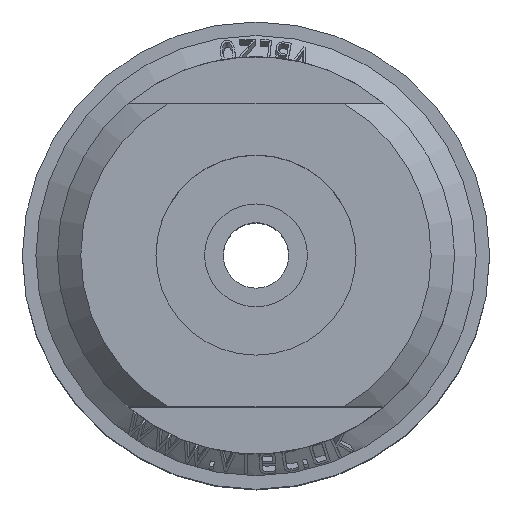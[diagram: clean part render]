
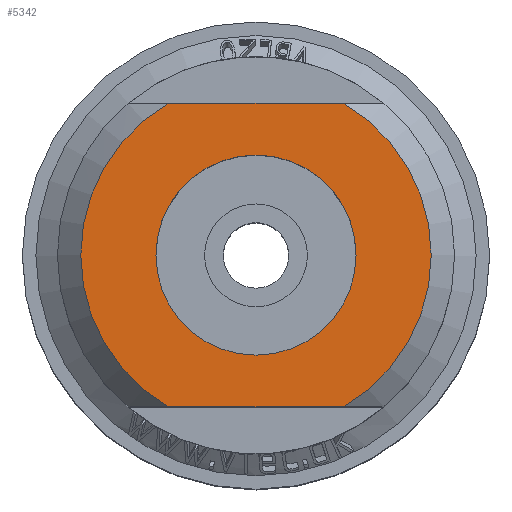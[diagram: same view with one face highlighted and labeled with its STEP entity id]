
A CAD part, top view. The second image highlights one B-rep face of the part: STEP entity #5342.
In plain terms, the highlighted planar face has unit normal (0, 0, 1).
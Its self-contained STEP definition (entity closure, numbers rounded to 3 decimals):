
#5342 = ADVANCED_FACE( '', ( #6668, #6669 ), #6670, .T. );
#6668 = FACE_BOUND( '', #7391, .T. );
#6669 = FACE_OUTER_BOUND( '', #7392, .T. );
#6670 = PLANE( '', #7393 );
#7391 = EDGE_LOOP( '', ( #8465 ) );
#7392 = EDGE_LOOP( '', ( #8466, #8467, #8468, #8469 ) );
#7393 = AXIS2_PLACEMENT_3D( '', #8470, #8471, #8472 );
#8465 = ORIENTED_EDGE( '', *, *, #11219, .T. );
#8466 = ORIENTED_EDGE( '', *, *, #11213, .F. );
#8467 = ORIENTED_EDGE( '', *, *, #11211, .T. );
#8468 = ORIENTED_EDGE( '', *, *, #11220, .F. );
#8469 = ORIENTED_EDGE( '', *, *, #11216, .F. );
#8470 = CARTESIAN_POINT( '', ( 0., 0., 6.85 ) );
#8471 = DIRECTION( '', ( 0., 0., 1. ) );
#8472 = DIRECTION( '', ( 1., 0., 0. ) );
#11211 = EDGE_CURVE( '', #11527, #11525, #11528, .T. );
#11213 = EDGE_CURVE( '', #11527, #11530, #11531, .T. );
#11216 = EDGE_CURVE( '', #11530, #11534, #11535, .T. );
#11219 = EDGE_CURVE( '', #11539, #11539, #11540, .T. );
#11220 = EDGE_CURVE( '', #11534, #11525, #11541, .T. );
#11525 = VERTEX_POINT( '', #11606 );
#11527 = VERTEX_POINT( '', #11611 );
#11528 = LINE( '', #11612, #11613 );
#11530 = VERTEX_POINT( '', #11618 );
#11531 = CIRCLE( '', #11619, 7.5 );
#11534 = VERTEX_POINT( '', #11626 );
#11535 = LINE( '', #11627, #11628 );
#11539 = VERTEX_POINT( '', #11635 );
#11540 = CIRCLE( '', #11636, 4.283 );
#11541 = CIRCLE( '', #11637, 7.5 );
#11606 = CARTESIAN_POINT( '', ( 3.742, -6.5, 6.85 ) );
#11611 = CARTESIAN_POINT( '', ( -3.742, -6.5, 6.85 ) );
#11612 = CARTESIAN_POINT( '', ( -5.477, -6.5, 6.85 ) );
#11613 = VECTOR( '', #11698, 1000. );
#11618 = CARTESIAN_POINT( '', ( -3.742, 6.5, 6.85 ) );
#11619 = AXIS2_PLACEMENT_3D( '', #11699, #11700, #11701 );
#11626 = CARTESIAN_POINT( '', ( 3.742, 6.5, 6.85 ) );
#11627 = CARTESIAN_POINT( '', ( -5.477, 6.5, 6.85 ) );
#11628 = VECTOR( '', #11703, 1000. );
#11635 = CARTESIAN_POINT( '', ( 0., -4.283, 6.85 ) );
#11636 = AXIS2_PLACEMENT_3D( '', #11707, #11708, #11709 );
#11637 = AXIS2_PLACEMENT_3D( '', #11710, #11711, #11712 );
#11698 = DIRECTION( '', ( 1., 0., 0. ) );
#11699 = CARTESIAN_POINT( '', ( 0., 0., 6.85 ) );
#11700 = DIRECTION( '', ( 0., 0., -1. ) );
#11701 = DIRECTION( '', ( -1., 0., 0. ) );
#11703 = DIRECTION( '', ( 1., 0., 0. ) );
#11707 = CARTESIAN_POINT( '', ( 0., 0., 6.85 ) );
#11708 = DIRECTION( '', ( 0., 0., -1. ) );
#11709 = DIRECTION( '', ( 0., -1., 0. ) );
#11710 = CARTESIAN_POINT( '', ( 0., 0., 6.85 ) );
#11711 = DIRECTION( '', ( 0., 0., -1. ) );
#11712 = DIRECTION( '', ( -1., 0., 0. ) );
